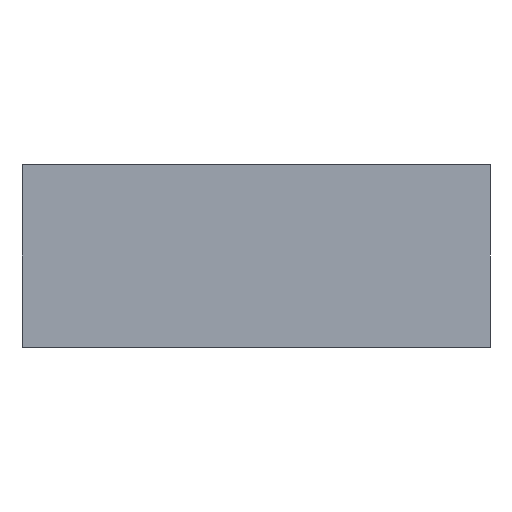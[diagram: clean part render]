
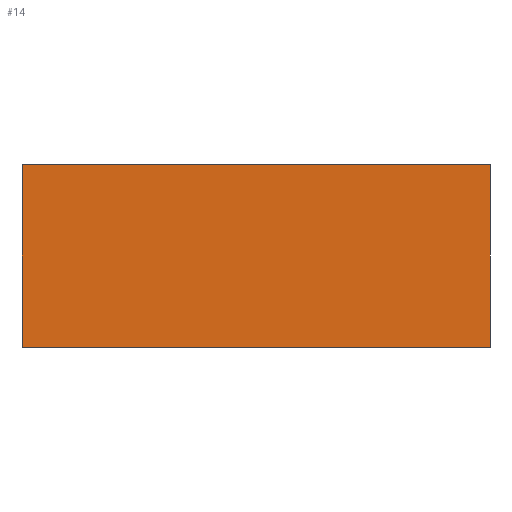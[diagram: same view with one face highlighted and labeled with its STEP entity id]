
A CAD part, front view. The second image highlights one B-rep face of the part: STEP entity #14.
In plain terms, the highlighted planar face has unit normal (0, -1, 0).
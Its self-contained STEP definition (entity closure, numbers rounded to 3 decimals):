
#14 = ADVANCED_FACE ( 'NONE', ( #192 ), #389, .F. ) ;
#42 = EDGE_CURVE ( 'NONE', #338, #344, #228, .T. ) ;
#45 = EDGE_CURVE ( 'NONE', #338, #347, #249, .T. ) ;
#70 = AXIS2_PLACEMENT_3D ( 'NONE', #393, #399, #400 ) ;
#147 = ORIENTED_EDGE ( 'NONE', *, *, #45, .T. ) ;
#148 = ORIENTED_EDGE ( 'NONE', *, *, #42, .F. ) ;
#149 = ORIENTED_EDGE ( 'NONE', *, *, #299, .F. ) ;
#150 = ORIENTED_EDGE ( 'NONE', *, *, #302, .T. ) ;
#181 = EDGE_LOOP ( 'NONE', ( #150, #149, #148, #147 ) ) ;
#192 = FACE_OUTER_BOUND ( 'NONE', #181, .T. ) ;
#228 = LINE ( 'NONE', #440, #243 ) ;
#243 = VECTOR ( 'NONE', #449, 1000. ) ;
#249 = LINE ( 'NONE', #454, #250 ) ;
#250 = VECTOR ( 'NONE', #455, 1000. ) ;
#268 = LINE ( 'NONE', #475, #269 ) ;
#269 = VECTOR ( 'NONE', #476, 1000. ) ;
#274 = LINE ( 'NONE', #481, #275 ) ;
#275 = VECTOR ( 'NONE', #482, 1000. ) ;
#299 = EDGE_CURVE ( 'NONE', #344, #342, #268, .T. ) ;
#302 = EDGE_CURVE ( 'NONE', #347, #342, #274, .T. ) ;
#338 = VERTEX_POINT ( 'NONE', #521 ) ;
#342 = VERTEX_POINT ( 'NONE', #525 ) ;
#344 = VERTEX_POINT ( 'NONE', #527 ) ;
#347 = VERTEX_POINT ( 'NONE', #528 ) ;
#389 = PLANE ( 'NONE',  #70 ) ;
#393 = CARTESIAN_POINT ( 'NONE',  ( -86.5, -5.5, -17.9 ) ) ;
#399 = DIRECTION ( 'NONE',  ( 0., 1., 0. ) ) ;
#400 = DIRECTION ( 'NONE',  ( 0., 0., -1. ) ) ;
#440 = CARTESIAN_POINT ( 'NONE',  ( -86.5, -5.5, -17.9 ) ) ;
#449 = DIRECTION ( 'NONE',  ( 0., 0., 1. ) ) ;
#454 = CARTESIAN_POINT ( 'NONE',  ( -86.5, -5.5, -17.9 ) ) ;
#455 = DIRECTION ( 'NONE',  ( 1., 0., 0. ) ) ;
#475 = CARTESIAN_POINT ( 'NONE',  ( -86.5, -5.5, 49.7 ) ) ;
#476 = DIRECTION ( 'NONE',  ( 1., 0., 0. ) ) ;
#481 = CARTESIAN_POINT ( 'NONE',  ( 86.5, -5.5, -17.9 ) ) ;
#482 = DIRECTION ( 'NONE',  ( 0., 0., 1. ) ) ;
#521 = CARTESIAN_POINT ( 'NONE',  ( -86.5, -5.5, -17.9 ) ) ;
#525 = CARTESIAN_POINT ( 'NONE',  ( 86.5, -5.5, 49.7 ) ) ;
#527 = CARTESIAN_POINT ( 'NONE',  ( -86.5, -5.5, 49.7 ) ) ;
#528 = CARTESIAN_POINT ( 'NONE',  ( 86.5, -5.5, -17.9 ) ) ;
